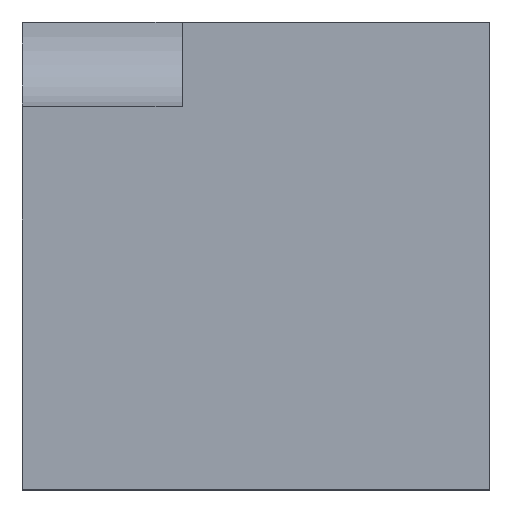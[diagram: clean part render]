
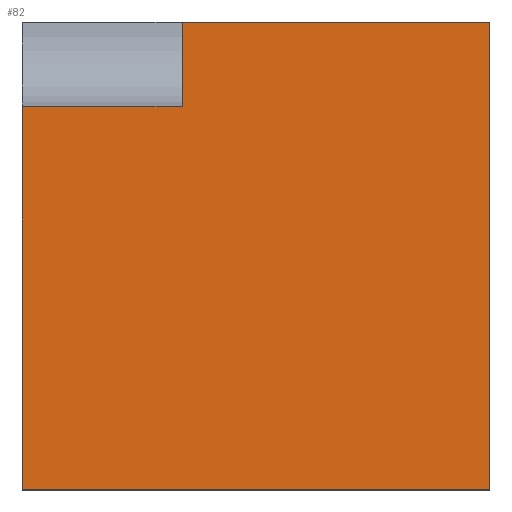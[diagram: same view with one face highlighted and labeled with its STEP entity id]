
A CAD part, top view. The second image highlights one B-rep face of the part: STEP entity #82.
In plain terms, the highlighted planar face has unit normal (0, 0, 1).
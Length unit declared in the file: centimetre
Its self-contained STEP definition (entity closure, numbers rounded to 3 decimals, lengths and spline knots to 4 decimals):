
#27 = EDGE_CURVE ( 'NONE', #532, #572, #401, .T. ) ;
#49 = LINE ( 'NONE', #273, #262 ) ;
#56 = DIRECTION ( 'NONE',  ( 0., 1., 0. ) ) ;
#68 = CARTESIAN_POINT ( 'NONE',  ( 0., 1000., 1000. ) ) ;
#75 = CARTESIAN_POINT ( 'NONE',  ( 0., 1000., 1000. ) ) ;
#82 = ADVANCED_FACE ( 'NONE', ( #237 ), #279, .T. ) ;
#83 = EDGE_LOOP ( 'NONE', ( #429, #103, #449, #125, #264, #480 ) ) ;
#103 = ORIENTED_EDGE ( 'NONE', *, *, #311, .T. ) ;
#104 = CARTESIAN_POINT ( 'NONE',  ( 0., 0., 1000. ) ) ;
#112 = CARTESIAN_POINT ( 'NONE',  ( 342.0296, 818.6226, 1000. ) ) ;
#124 = DIRECTION ( 'NONE',  ( 0., -1., 0. ) ) ;
#125 = ORIENTED_EDGE ( 'NONE', *, *, #497, .T. ) ;
#142 = CARTESIAN_POINT ( 'NONE',  ( 1000., 0., 1000. ) ) ;
#143 = EDGE_CURVE ( 'NONE', #400, #171, #149, .T. ) ;
#149 = LINE ( 'NONE', #68, #490 ) ;
#153 = VECTOR ( 'NONE', #124, 100. ) ;
#164 = LINE ( 'NONE', #75, #153 ) ;
#171 = VERTEX_POINT ( 'NONE', #188 ) ;
#177 = EDGE_CURVE ( 'NONE', #171, #547, #408, .T. ) ;
#186 = DIRECTION ( 'NONE',  ( 0., -1., 0. ) ) ;
#188 = CARTESIAN_POINT ( 'NONE',  ( 342.0296, 1000., 1000. ) ) ;
#191 = CARTESIAN_POINT ( 'NONE',  ( 342.0296, 818.6226, 1000. ) ) ;
#193 = AXIS2_PLACEMENT_3D ( 'NONE', #554, #378, #235 ) ;
#232 = CARTESIAN_POINT ( 'NONE',  ( 0., 818.6226, 1000. ) ) ;
#235 = DIRECTION ( 'NONE',  ( 1., 0., 0. ) ) ;
#237 = FACE_OUTER_BOUND ( 'NONE', #83, .T. ) ;
#262 = VECTOR ( 'NONE', #56, 100. ) ;
#264 = ORIENTED_EDGE ( 'NONE', *, *, #143, .T. ) ;
#273 = CARTESIAN_POINT ( 'NONE',  ( 1000., 1000., 1000. ) ) ;
#275 = VECTOR ( 'NONE', #427, 100. ) ;
#279 = PLANE ( 'NONE',  #193 ) ;
#291 = CARTESIAN_POINT ( 'NONE',  ( 1000., 1000., 1000. ) ) ;
#311 = EDGE_CURVE ( 'NONE', #512, #532, #164, .T. ) ;
#339 = LINE ( 'NONE', #112, #275 ) ;
#374 = CARTESIAN_POINT ( 'NONE',  ( 342.0296, 0., 1000. ) ) ;
#378 = DIRECTION ( 'NONE',  ( 0., 0., 1. ) ) ;
#400 = VERTEX_POINT ( 'NONE', #291 ) ;
#401 = LINE ( 'NONE', #530, #562 ) ;
#403 = DIRECTION ( 'NONE',  ( 1., 0., 0. ) ) ;
#408 = LINE ( 'NONE', #374, #428 ) ;
#410 = EDGE_CURVE ( 'NONE', #512, #547, #339, .T. ) ;
#411 = DIRECTION ( 'NONE',  ( -1., 0., 0. ) ) ;
#427 = DIRECTION ( 'NONE',  ( 1., 0., 0. ) ) ;
#428 = VECTOR ( 'NONE', #186, 100. ) ;
#429 = ORIENTED_EDGE ( 'NONE', *, *, #410, .F. ) ;
#449 = ORIENTED_EDGE ( 'NONE', *, *, #27, .T. ) ;
#480 = ORIENTED_EDGE ( 'NONE', *, *, #177, .T. ) ;
#490 = VECTOR ( 'NONE', #411, 100. ) ;
#497 = EDGE_CURVE ( 'NONE', #572, #400, #49, .T. ) ;
#512 = VERTEX_POINT ( 'NONE', #232 ) ;
#530 = CARTESIAN_POINT ( 'NONE',  ( 0., 0., 1000. ) ) ;
#532 = VERTEX_POINT ( 'NONE', #104 ) ;
#547 = VERTEX_POINT ( 'NONE', #191 ) ;
#554 = CARTESIAN_POINT ( 'NONE',  ( 0., 0., 1000. ) ) ;
#562 = VECTOR ( 'NONE', #403, 100. ) ;
#572 = VERTEX_POINT ( 'NONE', #142 ) ;
